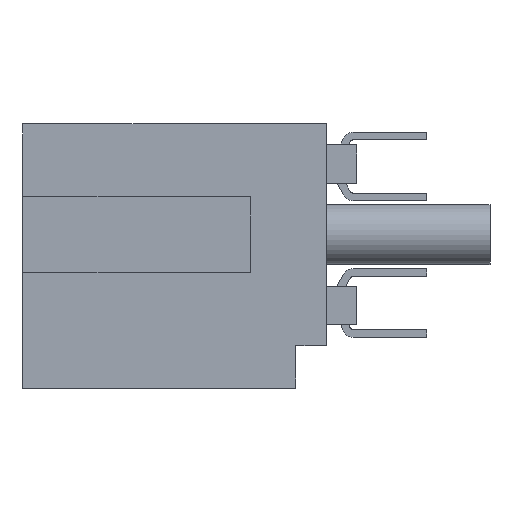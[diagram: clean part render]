
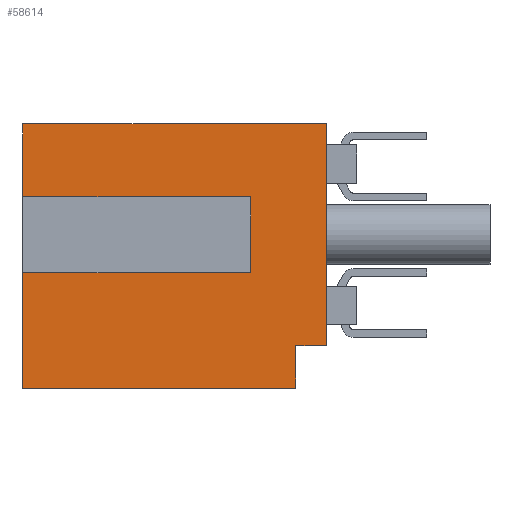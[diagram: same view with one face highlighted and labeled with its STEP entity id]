
A CAD part, left-side view. The second image highlights one B-rep face of the part: STEP entity #58614.
In plain terms, the highlighted planar face has unit normal (-1, 0, 0).
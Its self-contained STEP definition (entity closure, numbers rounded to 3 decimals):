
#2351=ORIENTED_EDGE('',*,*,#19099,.F.);
#2352=ORIENTED_EDGE('',*,*,#19100,.T.);
#2353=ORIENTED_EDGE('',*,*,#19101,.T.);
#2354=ORIENTED_EDGE('',*,*,#19102,.T.);
#2355=ORIENTED_EDGE('',*,*,#19103,.F.);
#2356=ORIENTED_EDGE('',*,*,#19104,.F.);
#2357=ORIENTED_EDGE('',*,*,#19105,.T.);
#2358=ORIENTED_EDGE('',*,*,#19106,.F.);
#2359=ORIENTED_EDGE('',*,*,#19107,.F.);
#2360=ORIENTED_EDGE('',*,*,#19108,.T.);
#19099=EDGE_CURVE('',#27473,#27474,#33052,.T.);
#19100=EDGE_CURVE('',#27473,#27475,#33053,.T.);
#19101=EDGE_CURVE('',#27475,#27476,#33054,.T.);
#19102=EDGE_CURVE('',#27476,#27477,#33055,.T.);
#19103=EDGE_CURVE('',#27478,#27477,#33056,.T.);
#19104=EDGE_CURVE('',#27479,#27478,#33057,.T.);
#19105=EDGE_CURVE('',#27479,#27480,#33058,.T.);
#19106=EDGE_CURVE('',#27481,#27480,#33059,.T.);
#19107=EDGE_CURVE('',#27482,#27481,#33060,.T.);
#19108=EDGE_CURVE('',#27482,#27474,#33061,.T.);
#27473=VERTEX_POINT('',#80841);
#27474=VERTEX_POINT('',#80842);
#27475=VERTEX_POINT('',#80844);
#27476=VERTEX_POINT('',#80846);
#27477=VERTEX_POINT('',#80848);
#27478=VERTEX_POINT('',#80850);
#27479=VERTEX_POINT('',#80852);
#27480=VERTEX_POINT('',#80854);
#27481=VERTEX_POINT('',#80856);
#27482=VERTEX_POINT('',#80858);
#33052=LINE('',#80840,#39884);
#33053=LINE('',#80843,#39885);
#33054=LINE('',#80845,#39886);
#33055=LINE('',#80847,#39887);
#33056=LINE('',#80849,#39888);
#33057=LINE('',#80851,#39889);
#33058=LINE('',#80853,#39890);
#33059=LINE('',#80855,#39891);
#33060=LINE('',#80857,#39892);
#33061=LINE('',#80859,#39893);
#39884=VECTOR('',#65548,1000.);
#39885=VECTOR('',#65549,1000.);
#39886=VECTOR('',#65550,1000.);
#39887=VECTOR('',#65551,1000.);
#39888=VECTOR('',#65552,1000.);
#39889=VECTOR('',#65553,1000.);
#39890=VECTOR('',#65554,1000.);
#39891=VECTOR('',#65555,1000.);
#39892=VECTOR('',#65556,1000.);
#39893=VECTOR('',#65557,1000.);
#46716=EDGE_LOOP('',(#2351,#2352,#2353,#2354,#2355,#2356,#2357,#2358,#2359,
#2360));
#49541=FACE_BOUND('',#46716,.T.);
#52366=PLANE('',#61314);
#58614=ADVANCED_FACE('',(#49541),#52366,.T.);
#61314=AXIS2_PLACEMENT_3D('',#80839,#65546,#65547);
#65546=DIRECTION('',(-1.,0.,0.));
#65547=DIRECTION('',(0.,0.,1.));
#65548=DIRECTION('',(0.,0.,1.));
#65549=DIRECTION('',(0.,-1.,0.));
#65550=DIRECTION('',(0.,0.,-1.));
#65551=DIRECTION('',(0.,1.,0.));
#65552=DIRECTION('',(0.,0.,1.));
#65553=DIRECTION('',(0.,1.,0.));
#65554=DIRECTION('',(0.,0.,1.));
#65555=DIRECTION('',(0.,1.,0.));
#65556=DIRECTION('',(0.,0.,-1.));
#65557=DIRECTION('',(0.,1.,0.));
#80839=CARTESIAN_POINT('',(-26.5,9.3,-3.65));
#80840=CARTESIAN_POINT('',(-26.5,10.,-3.65));
#80841=CARTESIAN_POINT('',(-26.5,10.,1.25));
#80842=CARTESIAN_POINT('',(-26.5,10.,3.65));
#80843=CARTESIAN_POINT('',(-26.5,10.,1.25));
#80844=CARTESIAN_POINT('',(-26.5,2.5,1.25));
#80845=CARTESIAN_POINT('',(-26.5,2.5,1.25));
#80846=CARTESIAN_POINT('',(-26.5,2.5,-1.25));
#80847=CARTESIAN_POINT('',(-26.5,2.5,-1.25));
#80848=CARTESIAN_POINT('',(-26.5,10.,-1.25));
#80849=CARTESIAN_POINT('',(-26.5,10.,-3.65));
#80850=CARTESIAN_POINT('',(-26.5,10.,-5.05));
#80851=CARTESIAN_POINT('',(-26.5,6.399,-5.05));
#80852=CARTESIAN_POINT('',(-26.5,1.008,-5.05));
#80853=CARTESIAN_POINT('',(-26.5,1.008,-5.05));
#80854=CARTESIAN_POINT('',(-26.5,1.008,-3.65));
#80855=CARTESIAN_POINT('',(-26.5,9.3,-3.65));
#80856=CARTESIAN_POINT('',(-26.5,0.,-3.65));
#80857=CARTESIAN_POINT('',(-26.5,0.,3.65));
#80858=CARTESIAN_POINT('',(-26.5,0.,3.65));
#80859=CARTESIAN_POINT('',(-26.5,9.3,3.65));
